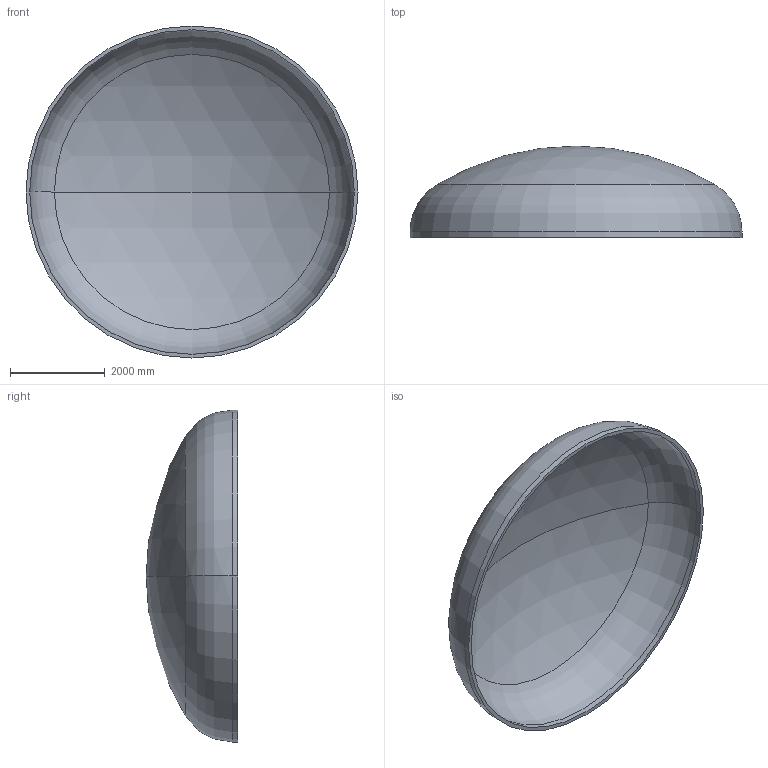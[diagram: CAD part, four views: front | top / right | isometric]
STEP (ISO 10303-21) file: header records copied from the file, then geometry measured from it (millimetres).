
FILE_DESCRIPTION (( 'STEP AP203' ), '1' );
FILE_NAME ('DIN 28013 Korbbogenform_-_Boden DIN 28013 - 7000 x 120 - I - s=78.step', '2016-07-04T10:49:08', ( '' ), ( '' ), 'SwSTEP 2.0', 'SolidWorks 2013', '' );
FILE_SCHEMA (( 'CONFIG_CONTROL_DESIGN' ));
Length unit declared in the file: millimetre
Products named in the file (1): DIN 28013 Korbbogenform_-_Boden DIN 28013 - 7000 x 120 - I - s=78
Bounding box: 7000 x 1932.07 x 7000 mm (x, y, z)
Volume: 4301663117.3 mm3; surface area: 112007950.7 mm2
Topology: 1 solids, 1 shells, 13 faces, 24 edges, 14 vertices
Faces by surface type: torus 4, cylinder 4, sphere 4, plane 1
Entity records: 407 total; most frequent: DIRECTION 72, CARTESIAN_POINT 52, ORIENTED_EDGE 48, AXIS2_PLACEMENT_3D 34, EDGE_CURVE 24, CIRCLE 20, EDGE_LOOP 14, VERTEX_POINT 14
